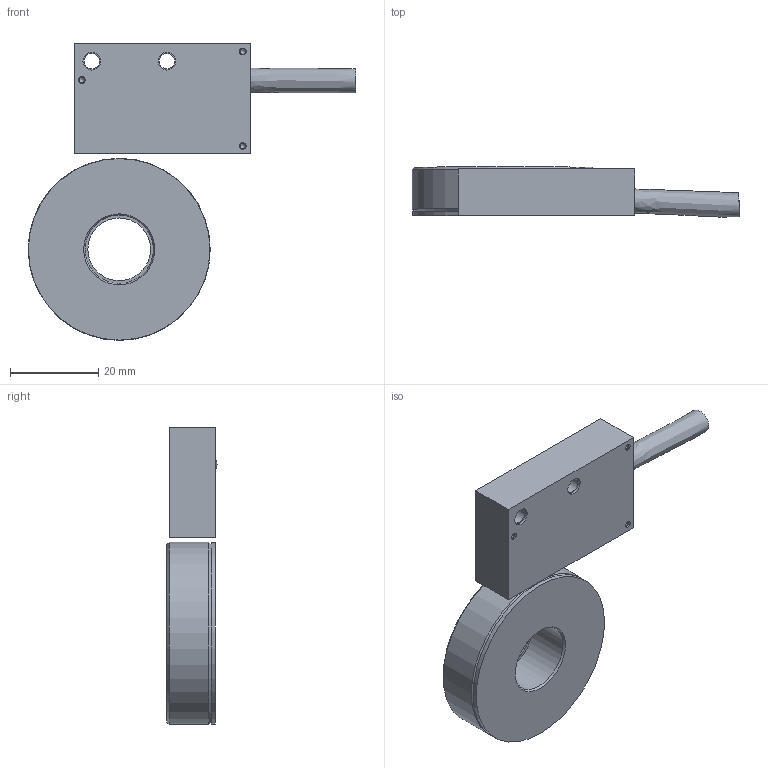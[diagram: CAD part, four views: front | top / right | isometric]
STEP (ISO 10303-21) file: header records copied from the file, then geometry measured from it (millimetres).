
FILE_DESCRIPTION( ( 'Unknown' ), '1' );
FILE_NAME( 'X:/I - Italia/UT - Ufficio Tecnico/Documenti Tecnico/Schede prodotti/InDesign/Assiemi SolidEdge per cataloghi/STEP ASSIEMI/ETMR_albero 14.stp', 'Unknown', ( 'Unknown' ), ( 'Unknown' ), 'PSStep 15.0.49', 'Unknown', ' ' );
FILE_SCHEMA( ( 'AUTOMOTIVE_DESIGN { 1 0 10303 214 1 1 1 1 }' ) );
Length unit declared in the file: millimetre
Products named in the file (2): 24210010
Bounding box: 74.23 x 11.38 x 67.22 mm (x, y, z)
Volume: 17029.1 mm3; surface area: 12677.1 mm2
Topology: 2 solids, 2 shells, 84 faces, 207 edges, 137 vertices
Faces by surface type: plane 40, cylinder 34, cone 8, bspline 1, torus 1
Full cylindrical faces by diameter (mm): 1.25 x3, 1.5 x3, 3.5 x2, 4 x2, 14.2 x1, 15.49 x1, 24.7 x1, 25.05 x1, 41.1 x1, 41.25 x1
Entity records: 3214 total; most frequent: CARTESIAN_POINT 605, DIRECTION 411, ORIENTED_EDGE 344, EDGE_CURVE 172, AXIS2_PLACEMENT_3D 163, VERTEX_POINT 131, EDGE_LOOP 128, FACE_OUTER_BOUND 102
